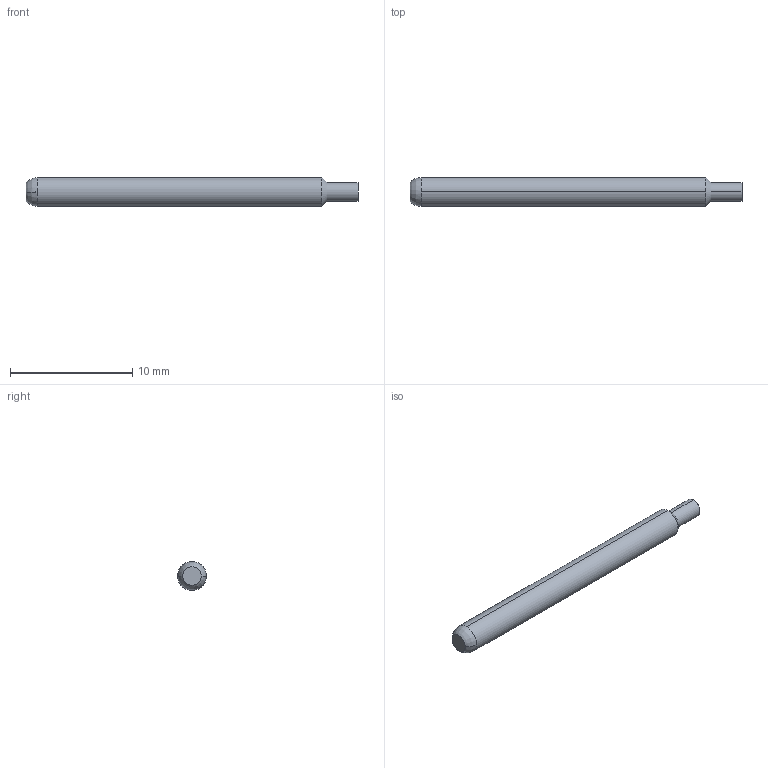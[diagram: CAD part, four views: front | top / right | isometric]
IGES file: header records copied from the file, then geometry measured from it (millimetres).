
Start section: SolidWorks IGES file using analytic representation for surfaces
Global section: file name: Z:\probe solid model mockups\Solidworks models\IGES Files\EPA-4 IGES files\EPA-4C Full.IGS; native system: SolidWorks 2006 by SolidWorks Corporation; preprocessor: SolidWorks 2006 by SolidWorks Corporation; author: tsakatani; date: 080103.104156; units: inch
Bounding box: 27.18 x 2.36 x 2.36 mm (x, y, z)
Surface area: 199.2 mm2 (no closed solid volume)
Topology: 0 solids, 0 shells, 10 faces, 68 edges, 68 vertices
Faces by surface type: revolution 8, bspline 2
